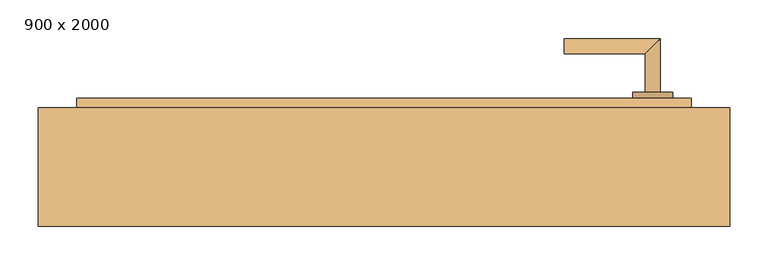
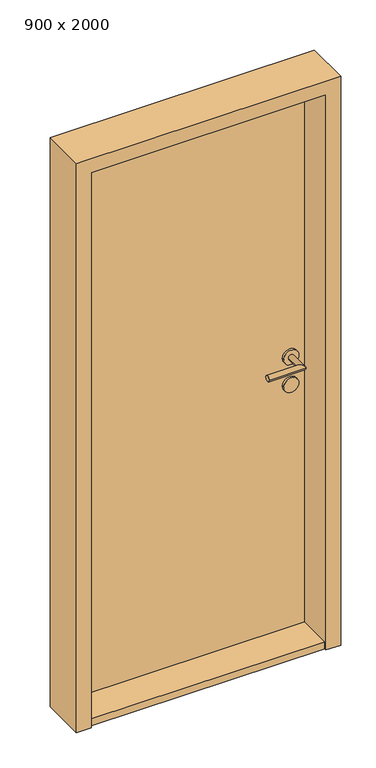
"""IFC4 building model written with IfcOpenShell, lengths in millimetres: door geometry, Jednokridle oboustrana zaruben : 900 x 2000."""

from ifc_helpers import new_model, si_unit, point, frame, frame_2d, origin, origin_with_axes, place, context, project, spatial, polyline, circle_curve, ellipse_curve, trimmed, segment, composite_curve, outline, extrude, source, transform, mapped, element, save
from ifc_brep_helpers import plane_surface, cylinder_surface, advanced_brep


def door_900_x_2000_c64c60ef(model_context):
    return source(origin(), model_context, "Body", "SolidModel", [
        advanced_brep(
        [(340.0, 97.25, 1000.0), (320.0, 97.25, 1000.0), (320.0, 147.25, 1000.0), (340.0, 167.25, 1000.0), (215.0, 167.25, 1000.0), (215.0, 147.25, 1000.0)],
        [
            (0, 1, circle_curve(frame((330.0, 97.25, 1000.0), z_axis=(0.0, -1.0, 0.0), x_axis=(-1.0, 0.0, 0.0)), 10.0)),
            (1, 0, circle_curve(frame((330.0, 97.25, 1000.0), z_axis=(0.0, -1.0, 0.0), x_axis=(-1.0, 0.0, 0.0)), 10.0)),
            (1, 2),
            (2, 3, ellipse_curve(frame((330.0, 157.25, 1000.0), z_axis=(0.7071067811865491, -0.7071067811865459, 0.0), x_axis=(-0.7071067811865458, -0.7071067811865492, 0.0)), 14.1421356, 10.0)),
            (3, 0),
            (3, 2, ellipse_curve(frame((330.0, 157.25, 1000.0), z_axis=(0.7071067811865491, -0.7071067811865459, 0.0), x_axis=(-0.7071067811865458, -0.7071067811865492, 0.0)), 14.1421356, 10.0)),
            (4, 5, circle_curve(frame((215.0, 157.25, 1000.0), z_axis=(-1.0, 0.0, 0.0), x_axis=(0.0, -1.0, 0.0)), 10.0)),
            (5, 4, circle_curve(frame((215.0, 157.25, 1000.0), z_axis=(-1.0, 0.0, 0.0), x_axis=(0.0, -1.0, 0.0)), 10.0)),
            (2, 5),
            (4, 3),
        ],
        [
            plane_surface(frame((330.0, 97.25, 1000.0), z_axis=(0.0, -1.0, 0.0), x_axis=(0.0, 0.0, 1.0))),
            cylinder_surface(frame((330.0, 97.25, 1000.0), z_axis=(0.0, -1.0, 0.0), x_axis=(-1.0, 0.0, 0.0)), 10.0),
            plane_surface(frame((215.0, 157.25, 1000.0), z_axis=(-1.0, 0.0, 0.0), x_axis=(0.0, 0.0, 1.0))),
            cylinder_surface(frame((330.0, 157.25, 1000.0), z_axis=(1.0, 0.0, 0.0), x_axis=(0.0, -1.0, 0.0)), 10.0),
        ],
        [
            (0, [[1, 2]]),
            (1, [[3, 4, 5, -2]]),
            (1, [[-5, 6, -3, -1]]),
            (2, [[7, 8]]),
            (3, [[9, -7, 10, -4]]),
            (3, [[-10, -8, -9, -6]]),
        ],
    ),
        extrude(outline(composite_curve([segment(trimmed(circle_curve(frame_2d((900.0, 330.0)), 26.0), [point((900.0, 304.0))], [point((900.0, 356.0))], False, "CARTESIAN"), True, "CONTINUOUS"), segment(trimmed(circle_curve(frame_2d((900.0, 330.0)), 26.0), [point((900.0, 356.0))], [point((900.0, 304.0))], False, "CARTESIAN"), True, "CONTINUOUS")], self_intersect=False)), frame((0.0, 89.25, 0.0), z_axis=(0.0, 1.0, 0.0), x_axis=(0.0, 0.0, 1.0)), (0.0, 0.0, 1.0), 8.0),
        extrude(outline(composite_curve([segment(trimmed(circle_curve(frame_2d((1000.0, 330.0)), 26.0), [point((1000.0, 304.0))], [point((1000.0, 356.0))], False, "CARTESIAN"), True, "CONTINUOUS"), segment(trimmed(circle_curve(frame_2d((1000.0, 330.0)), 26.0), [point((1000.0, 356.0))], [point((1000.0, 304.0))], False, "CARTESIAN"), True, "CONTINUOUS")], self_intersect=False)), frame((0.0, 89.25, 0.0), z_axis=(0.0, 1.0, 0.0), x_axis=(0.0, 0.0, 1.0)), (0.0, 0.0, 1.0), 8.0),
        advanced_brep(
        [(340.0, 41.25, 1000.0), (320.0, 41.25, 1000.0), (340.0, -28.75, 1000.0), (320.0, -8.75, 1000.0), (215.0, -28.75, 1000.0), (215.0, -8.75, 1000.0)],
        [
            (0, 1, circle_curve(frame((330.0, 41.25, 1000.0), z_axis=(0.0, 1.0, 0.0), x_axis=(-1.0, 0.0, 0.0)), 10.0)),
            (1, 0, circle_curve(frame((330.0, 41.25, 1000.0), z_axis=(0.0, 1.0, 0.0), x_axis=(-1.0, 0.0, 0.0)), 10.0)),
            (0, 2),
            (2, 3, ellipse_curve(frame((330.0, -18.75, 1000.0), z_axis=(0.7071067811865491, 0.7071067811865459, 0.0), x_axis=(-0.7071067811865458, 0.7071067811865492, 0.0)), 14.1421356, 10.0)),
            (3, 1),
            (3, 2, ellipse_curve(frame((330.0, -18.75, 1000.0), z_axis=(0.7071067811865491, 0.7071067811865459, 0.0), x_axis=(-0.7071067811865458, 0.7071067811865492, 0.0)), 14.1421356, 10.0)),
            (4, 5, circle_curve(frame((215.0, -18.75, 1000.0), z_axis=(-1.0, 0.0, 0.0), x_axis=(0.0, 1.0, 0.0)), 10.0)),
            (5, 4, circle_curve(frame((215.0, -18.75, 1000.0), z_axis=(-1.0, 0.0, 0.0), x_axis=(0.0, 1.0, 0.0)), 10.0)),
            (2, 4),
            (5, 3),
        ],
        [
            plane_surface(frame((330.0, 41.25, 1000.0), z_axis=(0.0, 1.0, 0.0), x_axis=(0.0, 0.0, 1.0))),
            cylinder_surface(frame((330.0, 41.25, 1000.0), z_axis=(0.0, 1.0, 0.0), x_axis=(-1.0, 0.0, 0.0)), 10.0),
            plane_surface(frame((215.0, -18.75, 1000.0), z_axis=(-1.0, 0.0, 0.0), x_axis=(0.0, 0.0, 1.0))),
            cylinder_surface(frame((330.0, -18.75, 1000.0), z_axis=(1.0, 0.0, 0.0), x_axis=(0.0, 1.0, 0.0)), 10.0),
        ],
        [
            (0, [[1, 2]]),
            (1, [[-1, 3, 4, 5]]),
            (1, [[-2, -5, 6, -3]]),
            (2, [[7, 8]]),
            (3, [[-4, 9, -8, 10]]),
            (3, [[-6, -10, -7, -9]]),
        ],
    ),
        extrude(outline(composite_curve([segment(trimmed(circle_curve(frame_2d((900.0, 330.0)), 26.0), [point((900.0, 304.0))], [point((900.0, 356.0))], False, "CARTESIAN"), True, "CONTINUOUS"), segment(trimmed(circle_curve(frame_2d((900.0, 330.0)), 26.0), [point((900.0, 356.0))], [point((900.0, 304.0))], False, "CARTESIAN"), True, "CONTINUOUS")], self_intersect=False)), frame((0.0, 41.25, 0.0), z_axis=(0.0, 1.0, 0.0), x_axis=(0.0, 0.0, 1.0)), (0.0, 0.0, 1.0), 8.0),
        extrude(outline(composite_curve([segment(trimmed(circle_curve(frame_2d((1000.0, 330.0)), 26.0), [point((1000.0, 304.0))], [point((1000.0, 356.0))], False, "CARTESIAN"), True, "CONTINUOUS"), segment(trimmed(circle_curve(frame_2d((1000.0, 330.0)), 26.0), [point((1000.0, 356.0))], [point((1000.0, 304.0))], False, "CARTESIAN"), True, "CONTINUOUS")], self_intersect=False)), frame((0.0, 41.25, 0.0), z_axis=(0.0, 1.0, 0.0), x_axis=(0.0, 0.0, 1.0)), (0.0, 0.0, 1.0), 8.0),
        extrude(outline(polyline([(-420.0, 89.25), (380.0, 89.25), (380.0, 49.25), (-420.0, 49.25), (-420.0, 89.25)])), origin_with_axes(), (0.0, 0.0, 1.0), 2000.0),
        extrude(outline(polyline([(0.0, 380.0), (0.0, 430.0), (2050.0, 430.0), (2050.0, -470.0), (0.0, -470.0), (0.0, -420.0), (2000.0, -420.0), (2000.0, 380.0), (0.0, 380.0)])), frame((0.0, -77.25, 0.0), z_axis=(0.0, 1.0, 0.0), x_axis=(0.0, 0.0, 1.0)), (0.0, 0.0, 1.0), 154.5),
        extrude(outline(polyline([(380.0, -69.25), (-420.0, -69.25), (-420.0, 49.25), (380.0, 49.25), (380.0, -69.25)])), origin_with_axes(), (0.0, 0.0, 1.0), 25.0),
    ])


if __name__ == "__main__":
    model = new_model("IFC4")
    model_context = context("Model", 3, world=origin())
    ifc_project = project(units=[si_unit("LENGTHUNIT", "METRE", prefix="MILLI")], contexts=[model_context])
    site = spatial("IfcSite", under=ifc_project)
    building = spatial("IfcBuilding", under=site)
    placement = place(None, origin())
    door_900_x_2000_shape = door_900_x_2000_c64c60ef(model_context)
    element("IfcDoor", 1, ObjectType="Jednokridle oboustrana zaruben : 900 x 2000", at=placement, inside=building, context=model_context, shape_type="MappedRepresentation", body=[
        mapped(door_900_x_2000_shape, transform((0.0, 0.0, 0.0), x_axis=(1.0, 0.0, 0.0), y_axis=(0.0, 1.0, 0.0), z_axis=(0.0, 0.0, 1.0))),
    ])
    save(model, "model.ifc")
